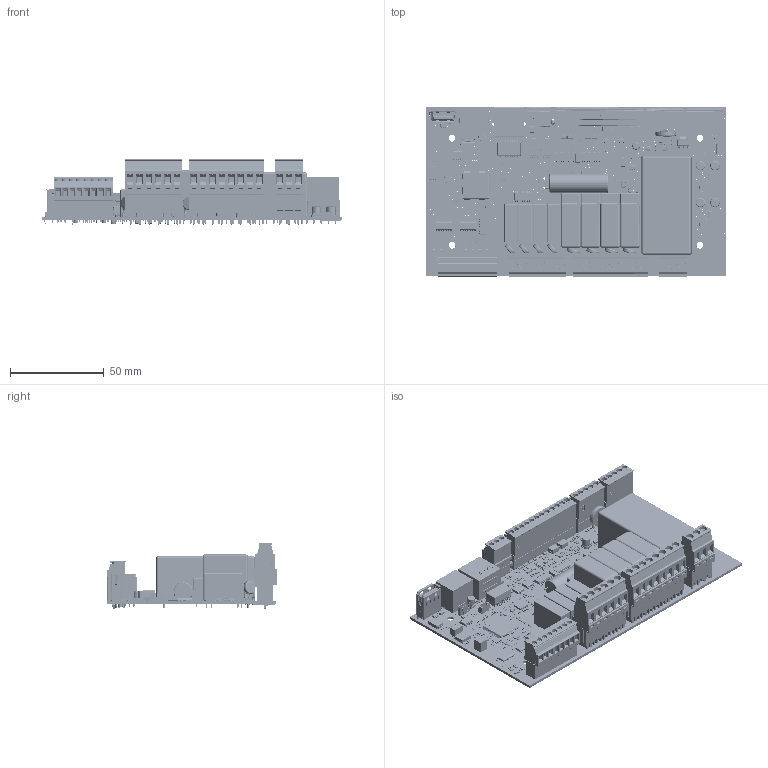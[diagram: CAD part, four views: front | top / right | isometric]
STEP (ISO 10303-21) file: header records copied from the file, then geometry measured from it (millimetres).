
FILE_DESCRIPTION(/* description */ ('HOOPS Exchange Step'),/* implementation_level */ '2;1');
FILE_NAME(/* name */ 'EPL200_V4_20260903.stp',/* time_stamp */ '2026-09-03T14:29:27+02:00',/* author */ ('ut3'),/* organization */ ('Unknown organisation'),/* preprocessor_version */ 'ST-DEVELOPER v20.1',/* originating_system */ 'Autodesk Inventor 2026',/* authorisation */ 'Unknown authorisation');
FILE_SCHEMA (('AUTOMOTIVE_DESIGN { 1 0 10303 214 3 1 1 }'));
Products named in the file (977): 0; Board Structure; Dielectric Layer 1-2; Dielectric Layer 2-3; Dielectric Layer 3-4; Via Plating; 0_1; 1; 2; 3; 4; 5; 6; 7; 8; 9; 10; 11; 12; 13; 14; 15; 16; 17; 18; 19; 20; 21; 22; 23; 24; 25; 26; 27; 28; 29; 30; 31; 32; 33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
Assembly tree (1375 placements, depth 5):
  0
    Board Structure
      Dielectric Layer 1-2
      Dielectric Layer 2-3
      Dielectric Layer 3-4
    Via Plating
      0_1
      1
      2
      3
      4
      5
      6
      7
      8
      9
      10
      11
      12
      13
      14
      15
      16
      17
      18
      19
      20
      21
      22
      23
      24
      25
      26
      27
      28
      29
      30
      31
      32
      33
      34
      35
      36
      37
      38
      39
      40
      41
      42
      43
      44
      45
      46
      47
      48
      49
      50
      51
      52
      53
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Bounding box: 160 x 90.66 x 35.51 mm (x, y, z)
Volume: 137196.7 mm3; surface area: 178394.9 mm2
Topology: 1592 solids, 7589 shells, 35526 faces, 99824 edges, 73211 vertices
Faces by surface type: plane 20332, cylinder 13040, sphere 1261, bspline 462, torus 227, cone 204
Full cylindrical faces by diameter (mm): 0.104 x1, 0.163 x10, 0.18 x18, 0.2 x3, 0.224 x2, 0.25 x2, 0.345 x2, 0.4 x2, 0.45 x16, 0.457 x4, 0.487 x4, 0.5 x7, 0.6 x32, 0.625 x1, 0.635 x2, 0.65 x8, 0.75 x2, 0.8 x15, 0.9 x4, 1 x48, 1.04 x4, 1.2 x33, 1.5 x4, 1.588 x14, 1.6 x12, 1.75 x1, 1.8 x26, 2.35 x2, 2.6 x17, 2.8 x11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
Entity records: 794776 total; most frequent: CARTESIAN_POINT 165605, DIRECTION 128864, ORIENTED_EDGE 97762, EDGE_CURVE 63079, VERTEX_POINT 50824, AXIS2_PLACEMENT_3D 44839, LINE 39186, VECTOR 39186
